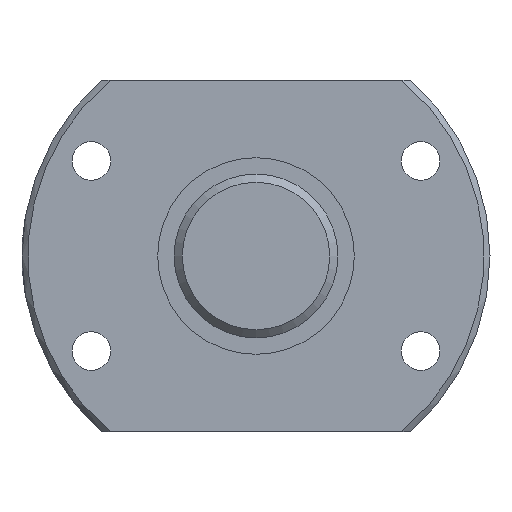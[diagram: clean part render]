
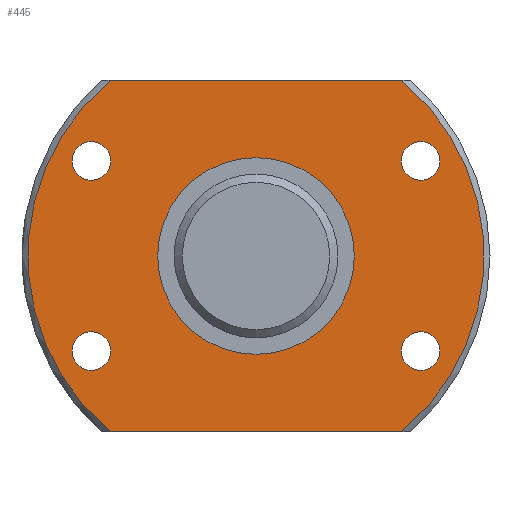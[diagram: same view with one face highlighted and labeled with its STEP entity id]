
A CAD part, left-side view. The second image highlights one B-rep face of the part: STEP entity #445.
In plain terms, the highlighted planar face has unit normal (-1, 0, 0).
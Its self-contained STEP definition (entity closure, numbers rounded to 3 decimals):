
#32=LINE('',#786,#40);
#33=LINE('',#790,#41);
#40=VECTOR('',#613,1000.);
#41=VECTOR('',#616,1000.);
#66=PLANE('',#515);
#102=ORIENTED_EDGE('',*,*,#196,.T.);
#103=ORIENTED_EDGE('',*,*,#197,.F.);
#104=ORIENTED_EDGE('',*,*,#198,.F.);
#105=ORIENTED_EDGE('',*,*,#199,.F.);
#106=ORIENTED_EDGE('',*,*,#186,.F.);
#107=ORIENTED_EDGE('',*,*,#200,.T.);
#108=ORIENTED_EDGE('',*,*,#201,.T.);
#109=ORIENTED_EDGE('',*,*,#202,.T.);
#110=ORIENTED_EDGE('',*,*,#203,.T.);
#186=EDGE_CURVE('',#234,#235,#273,.T.);
#196=EDGE_CURVE('',#244,#244,#278,.T.);
#197=EDGE_CURVE('',#245,#234,#32,.T.);
#198=EDGE_CURVE('',#246,#245,#279,.T.);
#199=EDGE_CURVE('',#235,#246,#33,.T.);
#200=EDGE_CURVE('',#247,#247,#280,.T.);
#201=EDGE_CURVE('',#248,#248,#281,.T.);
#202=EDGE_CURVE('',#249,#249,#282,.T.);
#203=EDGE_CURVE('',#250,#250,#283,.T.);
#234=VERTEX_POINT('',#738);
#235=VERTEX_POINT('',#740);
#244=VERTEX_POINT('',#785);
#245=VERTEX_POINT('',#787);
#246=VERTEX_POINT('',#789);
#247=VERTEX_POINT('',#792);
#248=VERTEX_POINT('',#794);
#249=VERTEX_POINT('',#796);
#250=VERTEX_POINT('',#798);
#273=CIRCLE('',#508,39.);
#278=CIRCLE('',#516,16.8);
#279=CIRCLE('',#517,39.);
#280=CIRCLE('',#518,3.3);
#281=CIRCLE('',#519,3.3);
#282=CIRCLE('',#520,3.3);
#283=CIRCLE('',#521,3.3);
#314=EDGE_LOOP('',(#102));
#315=EDGE_LOOP('',(#103,#104,#105,#106));
#316=EDGE_LOOP('',(#107));
#317=EDGE_LOOP('',(#108));
#318=EDGE_LOOP('',(#109));
#319=EDGE_LOOP('',(#110));
#376=FACE_BOUND('',#314,.T.);
#377=FACE_BOUND('',#315,.T.);
#378=FACE_BOUND('',#316,.T.);
#379=FACE_BOUND('',#317,.T.);
#380=FACE_BOUND('',#318,.T.);
#381=FACE_BOUND('',#319,.T.);
#445=ADVANCED_FACE('',(#376,#377,#378,#379,#380,#381),#66,.T.);
#508=AXIS2_PLACEMENT_3D('',#739,#593,#594);
#515=AXIS2_PLACEMENT_3D('',#783,#609,#610);
#516=AXIS2_PLACEMENT_3D('',#784,#611,#612);
#517=AXIS2_PLACEMENT_3D('',#788,#614,#615);
#518=AXIS2_PLACEMENT_3D('',#791,#617,#618);
#519=AXIS2_PLACEMENT_3D('',#793,#619,#620);
#520=AXIS2_PLACEMENT_3D('',#795,#621,#622);
#521=AXIS2_PLACEMENT_3D('',#797,#623,#624);
#593=DIRECTION('',(1.,0.,0.));
#594=DIRECTION('',(0.,0.,-1.));
#609=DIRECTION('',(-1.,0.,0.));
#610=DIRECTION('',(0.,0.,1.));
#611=DIRECTION('',(1.,0.,0.));
#612=DIRECTION('',(0.,0.,-1.));
#613=DIRECTION('',(0.,-1.,0.));
#614=DIRECTION('',(1.,0.,0.));
#615=DIRECTION('',(0.,0.,-1.));
#616=DIRECTION('',(0.,1.,0.));
#617=DIRECTION('',(1.,0.,0.));
#618=DIRECTION('',(0.,0.,-1.));
#619=DIRECTION('',(1.,0.,0.));
#620=DIRECTION('',(0.,0.,-1.));
#621=DIRECTION('',(1.,0.,0.));
#622=DIRECTION('',(0.,0.,-1.));
#623=DIRECTION('',(1.,0.,0.));
#624=DIRECTION('',(0.,0.,-1.));
#738=CARTESIAN_POINT('',(0.,-24.92,30.));
#739=CARTESIAN_POINT('',(0.,0.,0.));
#740=CARTESIAN_POINT('',(0.,-24.92,-30.));
#783=CARTESIAN_POINT('',(0.,39.,0.));
#784=CARTESIAN_POINT('',(0.,0.,0.));
#785=CARTESIAN_POINT('',(0.,0.,-16.8));
#786=CARTESIAN_POINT('',(0.,40.1,30.));
#787=CARTESIAN_POINT('',(0.,24.92,30.));
#788=CARTESIAN_POINT('',(0.,0.,0.));
#789=CARTESIAN_POINT('',(0.,24.92,-30.));
#790=CARTESIAN_POINT('',(0.,-40.1,-30.));
#791=CARTESIAN_POINT('',(0.,-28.146,16.25));
#792=CARTESIAN_POINT('',(0.,-28.146,12.95));
#793=CARTESIAN_POINT('',(0.,-28.146,-16.25));
#794=CARTESIAN_POINT('',(0.,-28.146,-19.55));
#795=CARTESIAN_POINT('',(0.,28.146,-16.25));
#796=CARTESIAN_POINT('',(0.,28.146,-19.55));
#797=CARTESIAN_POINT('',(0.,28.146,16.25));
#798=CARTESIAN_POINT('',(0.,28.146,12.95));
